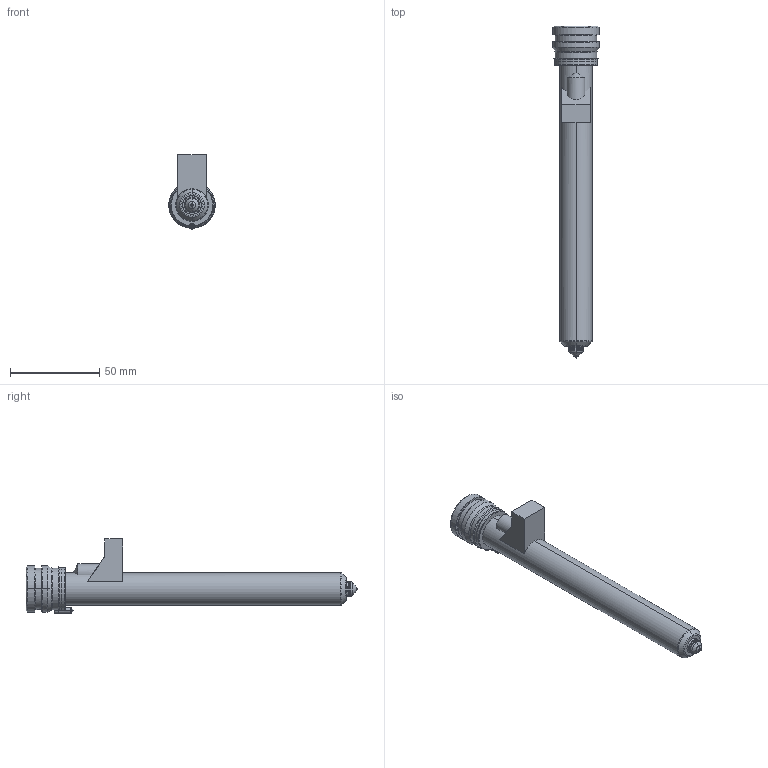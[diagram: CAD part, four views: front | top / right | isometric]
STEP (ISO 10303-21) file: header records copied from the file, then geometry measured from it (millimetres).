
FILE_DESCRIPTION((''),'2;1');
FILE_NAME('MPN-08-24-VX8-166-M','2026-02-05T13:31:43',('UPTIO'),('Thermoplay S.p.A.'),'CREO PARAMETRIC BY PTC INC, 2023494','CREO PARAMETRIC BY PTC INC, 2023494','');
FILE_SCHEMA(('CONFIG_CONTROL_DESIGN','SHAPE_APPEARANCE_LAYERS_GROUPS'));
Length unit declared in the file: millimetre
Products named in the file (1): MPN-08-24-VX8-166-M
Bounding box: 26 x 185.5 x 41.5 mm (x, y, z)
Volume: 34694.8 mm3; surface area: 46508 mm2
Topology: 2 solids, 3 shells, 529 faces, 1372 edges, 842 vertices
Faces by surface type: cylinder 174, plane 143, bspline 77, torus 60, cone 60, sphere 9, extrusion 6
Entity records: 27367 total; most frequent: CARTESIAN_POINT 11846, ORIENTED_EDGE 2726, DIRECTION 2495, EDGE_CURVE 1363, AXIS2_PLACEMENT_3D 975, VERTEX_POINT 842, EDGE_LOOP 559, VECTOR 545
